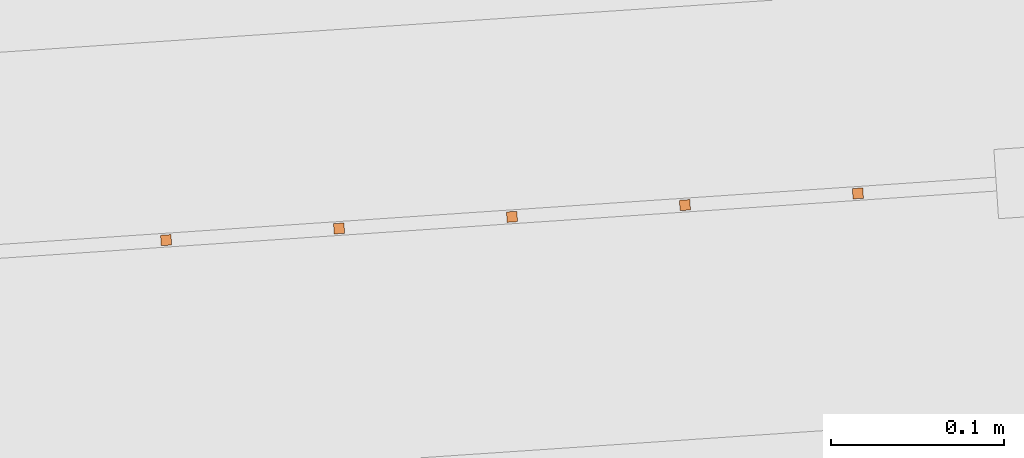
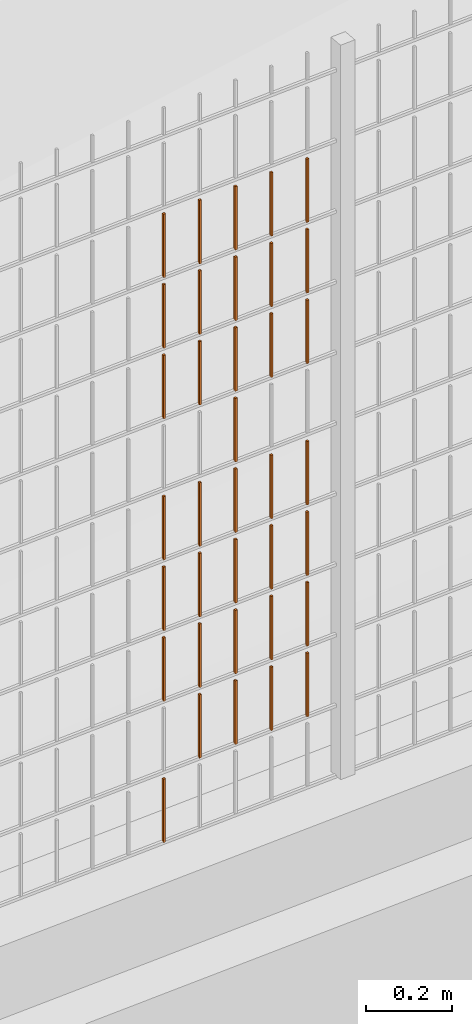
# One storey, part 133 of 1809: 36 proxies, 1 element without a shape of its own.
"""IFC2X3 building model written with IfcOpenShell, lengths in millimetres."""

from ifc_helpers import new_model, entity, si_unit, converted_unit, derived_unit, money_unit, direction, frame, origin_with_axes, place, context, subcontext, project, spatial, faceted_brep, source, transform, mapped, material, type_object, element, aggregate, save


model = new_model("IFC2X3")

# Units and contexts
model_context = context("Model", 3, precision=0.01, world=origin_with_axes(), true_north=direction((0.0, 1.0)))
body_context = subcontext(model_context, "Body", "Model", "MODEL_VIEW")
ifc_project = project(units=[si_unit("LENGTHUNIT", "METRE", prefix="MILLI"), si_unit("AREAUNIT", "SQUARE_METRE"), si_unit("VOLUMEUNIT", "CUBIC_METRE"), converted_unit("PLANEANGLEUNIT", "DEGREE", entity("IfcPlaneAngleMeasure", 0.0174532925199), si_unit("PLANEANGLEUNIT", "RADIAN"), dimensions=[0, 0, 0, 0, 0, 0, 0]), si_unit("SOLIDANGLEUNIT", "STERADIAN"), money_unit("EUR"), converted_unit("TIMEUNIT", "Year", entity("IfcTimeMeasure", 31556926.0), si_unit("TIMEUNIT", "SECOND"), dimensions=[0, 0, 1, 0, 0, 0, 0]), si_unit("MASSUNIT", "GRAM", prefix="KILO"), si_unit("THERMODYNAMICTEMPERATUREUNIT", "DEGREE_CELSIUS"), si_unit("LUMINOUSINTENSITYUNIT", "LUMEN"), si_unit("ENERGYUNIT", "JOULE", prefix="MEGA"), derived_unit("THERMALCONDUCTANCEUNIT", [(si_unit("POWERUNIT", "WATT"), 1), (si_unit("LENGTHUNIT", "METRE"), -1), (si_unit("THERMODYNAMICTEMPERATUREUNIT", "KELVIN"), -1)]), derived_unit("SPECIFICHEATCAPACITYUNIT", [(si_unit("ENERGYUNIT", "JOULE"), 1), (si_unit("MASSUNIT", "GRAM", prefix="KILO"), -1), (si_unit("THERMODYNAMICTEMPERATUREUNIT", "KELVIN"), -1)]), derived_unit("MASSDENSITYUNIT", [(si_unit("MASSUNIT", "GRAM", prefix="KILO"), 1), (si_unit("VOLUMEUNIT", "CUBIC_METRE"), -1)])], contexts=[model_context])

# Site, building, storey
site_placement = place(None, origin_with_axes())
site = spatial("IfcSite", under=ifc_project, at=site_placement, Name="Politse- ja Piirivalveameti ning Päästeameti ühishoone", CompositionType="ELEMENT")
building_placement = place(site_placement, origin_with_axes())
building = spatial("IfcBuilding", under=site, at=building_placement, Name="Politse- ja Piirivalveameti ning Päästeameti ühishoone", CompositionType="ELEMENT")
storey_placement = place(building_placement, origin_with_axes())
storey = spatial("IfcBuildingStorey", under=building, at=storey_placement, Name="Esimene korrus", CompositionType="ELEMENT", Elevation=0.0)

# Proxies
building_element_proxy_type_1 = type_object("IfcBuildingElementProxyType", Name="Railing Type", PredefinedType="NOTDEFINED")
proxy_1_placement = place(storey_placement, frame((89252.001212, -29183.4766571, 203.661247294), z_axis=(0.0, 0.0, 1.0), x_axis=(1.0, 0.0, 0.0)))
proxy_1 = element("IfcBuildingElementProxy", 1, at=proxy_1_placement, inside=storey, type_object=building_element_proxy_type_1, Name="PIIRDEAED")
ifc_material = material(Name="ET-03_Raud")
building_element_proxy_type_2 = type_object("IfcBuildingElementProxyType", Name="IfcBuildingElementProxy", PredefinedType="NOTDEFINED")
shared_shape_1 = source(origin_with_axes(), body_context, "Body", "Brep", [
    faceted_brep([(3.0, 3.0, -0.000752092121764), (-3.0, 3.0, -0.000752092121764), (-3.0, 3.0, 179.99926046), (3.0, 3.0, 179.99926046), (3.0, -3.0, 0.000752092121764), (-3.0, -3.0, 0.000752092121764), (-3.0, -3.0, 180.000764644), (3.0, -3.0, 180.000764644)], [[[0, 1, 2, 3]], [[0, 4, 5, 1]], [[1, 5, 6, 2]], [[3, 2, 6, 7]], [[4, 0, 3, 7]], [[5, 4, 7, 6]]]),
])
proxy_2_placement = place(proxy_1_placement, frame((-90121.3329752, -23385.1306984, 4.58972204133), z_axis=(0.0, 0.0, 1.0), x_axis=(1.0, 0.0, 0.0)))
proxy_2 = element("IfcBuildingElementProxy", 2, at=proxy_2_placement, type_object=building_element_proxy_type_2, material=ifc_material, Name="BALUSTER - 001", context=body_context, shape_type="MappedRepresentation", body=[
    mapped(shared_shape_1, transform((0.0, 0.0, 0.0), x_axis=(-0.0673926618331, 0.997726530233, 0.0), y_axis=(-0.997726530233, -0.0673926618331, 0.0), z_axis=(0.0, 0.0, 1.0))),
])
shared_shape_2 = source(origin_with_axes(), body_context, "Body", "Brep", [
    faceted_brep([(3.0, 3.0, -0.000752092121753), (-3.0, 3.0, -0.000752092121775), (-3.0, 3.0, 179.99926046), (3.0, 3.0, 179.99926046), (3.0, -3.0, 0.000752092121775), (-3.0, -3.0, 0.000752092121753), (-3.0, -3.0, 180.000764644), (3.0, -3.0, 180.000764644)], [[[0, 1, 2, 3]], [[0, 4, 5, 1]], [[1, 5, 6, 2]], [[3, 2, 6, 7]], [[4, 0, 3, 7]], [[5, 4, 7, 6]]]),
])
proxy_3_placement = place(proxy_1_placement, frame((-89722.2423631, -23358.1736337, 204.690000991), z_axis=(0.0, 0.0, 1.0), x_axis=(1.0, 0.0, 0.0)))
proxy_3 = element("IfcBuildingElementProxy", 3, at=proxy_3_placement, type_object=building_element_proxy_type_2, material=ifc_material, Name="BALUSTER - 001", context=body_context, shape_type="MappedRepresentation", body=[
    mapped(shared_shape_2, transform((0.0, 0.0, 0.0), x_axis=(-0.0673926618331, 0.997726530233, 0.0), y_axis=(-0.997726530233, -0.0673926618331, 0.0), z_axis=(0.0, 0.0, 1.0))),
])
shared_shape_3 = source(origin_with_axes(), body_context, "Body", "Brep", [
    faceted_brep([(3.0, 3.0, -0.000752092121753), (-3.0, 3.0, -0.000752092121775), (-3.0, 3.0, 179.99926046), (3.0, 3.0, 179.99926046), (3.0, -3.0, 0.000752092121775), (-3.0, -3.0, 0.000752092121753), (-3.0, -3.0, 180.000764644), (3.0, -3.0, 180.000764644)], [[[0, 1, 2, 3]], [[0, 4, 5, 1]], [[1, 5, 6, 2]], [[3, 2, 6, 7]], [[4, 0, 3, 7]], [[5, 4, 7, 6]]]),
])
proxy_4_placement = place(proxy_1_placement, frame((-89722.2423631, -23358.1736337, 404.690000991), z_axis=(0.0, 0.0, 1.0), x_axis=(1.0, 0.0, 0.0)))
proxy_4 = element("IfcBuildingElementProxy", 4, at=proxy_4_placement, type_object=building_element_proxy_type_2, material=ifc_material, Name="BALUSTER - 001", context=body_context, shape_type="MappedRepresentation", body=[
    mapped(shared_shape_3, transform((0.0, 0.0, 0.0), x_axis=(-0.0673926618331, 0.997726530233, 0.0), y_axis=(-0.997726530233, -0.0673926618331, 0.0), z_axis=(0.0, 0.0, 1.0))),
])
shared_shape_4 = source(origin_with_axes(), body_context, "Body", "Brep", [
    faceted_brep([(3.0, 3.0, -0.000752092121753), (-3.0, 3.0, -0.000752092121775), (-3.0, 3.0, 179.99926046), (3.0, 3.0, 179.99926046), (3.0, -3.0, 0.000752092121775), (-3.0, -3.0, 0.000752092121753), (-3.0, -3.0, 180.000764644), (3.0, -3.0, 180.000764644)], [[[0, 1, 2, 3]], [[0, 4, 5, 1]], [[1, 5, 6, 2]], [[3, 2, 6, 7]], [[4, 0, 3, 7]], [[5, 4, 7, 6]]]),
])
proxy_5_placement = place(proxy_1_placement, frame((-89822.0150162, -23364.9128999, 204.664931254), z_axis=(0.0, 0.0, 1.0), x_axis=(1.0, 0.0, 0.0)))
proxy_5 = element("IfcBuildingElementProxy", 5, at=proxy_5_placement, type_object=building_element_proxy_type_2, material=ifc_material, Name="BALUSTER - 001", context=body_context, shape_type="MappedRepresentation", body=[
    mapped(shared_shape_4, transform((0.0, 0.0, 0.0), x_axis=(-0.0673926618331, 0.997726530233, 0.0), y_axis=(-0.997726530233, -0.0673926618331, 0.0), z_axis=(0.0, 0.0, 1.0))),
])
proxy_6_placement = place(proxy_1_placement, frame((-89822.0150162, -23364.9128999, 404.664931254), z_axis=(0.0, 0.0, 1.0), x_axis=(1.0, 0.0, 0.0)))
proxy_6 = element("IfcBuildingElementProxy", 6, at=proxy_6_placement, type_object=building_element_proxy_type_2, material=ifc_material, Name="BALUSTER - 001", context=body_context, shape_type="MappedRepresentation", body=[
    mapped(shared_shape_4, transform((0.0, 0.0, 0.0), x_axis=(-0.0673926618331, 0.997726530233, 0.0), y_axis=(-0.997726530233, -0.0673926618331, 0.0), z_axis=(0.0, 0.0, 1.0))),
])
shared_shape_5 = source(origin_with_axes(), body_context, "Body", "Brep", [
    faceted_brep([(3.0, 3.0, -0.000752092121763), (-3.0, 3.0, -0.000752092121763), (-3.0, 3.0, 179.99926046), (3.0, 3.0, 179.99926046), (3.0, -3.0, 0.000752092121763), (-3.0, -3.0, 0.000752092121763), (-3.0, -3.0, 180.000764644), (3.0, -3.0, 180.000764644)], [[[0, 1, 2, 3]], [[0, 4, 5, 1]], [[1, 5, 6, 2]], [[3, 2, 6, 7]], [[4, 0, 3, 7]], [[5, 4, 7, 6]]]),
])
proxy_7_placement = place(proxy_1_placement, frame((-89921.7876692, -23371.6521661, 404.639861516), z_axis=(0.0, 0.0, 1.0), x_axis=(1.0, 0.0, 0.0)))
proxy_7 = element("IfcBuildingElementProxy", 7, at=proxy_7_placement, type_object=building_element_proxy_type_2, material=ifc_material, Name="BALUSTER - 001", context=body_context, shape_type="MappedRepresentation", body=[
    mapped(shared_shape_5, transform((0.0, 0.0, 0.0), x_axis=(-0.0673926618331, 0.997726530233, 0.0), y_axis=(-0.997726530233, -0.0673926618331, 0.0), z_axis=(0.0, 0.0, 1.0))),
])
proxy_8_placement = place(proxy_1_placement, frame((-89921.7876692, -23371.6521661, 604.639861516), z_axis=(0.0, 0.0, 1.0), x_axis=(1.0, 0.0, 0.0)))
proxy_8 = element("IfcBuildingElementProxy", 8, at=proxy_8_placement, type_object=building_element_proxy_type_2, material=ifc_material, Name="BALUSTER - 001", context=body_context, shape_type="MappedRepresentation", body=[
    mapped(shared_shape_5, transform((0.0, 0.0, 0.0), x_axis=(-0.0673926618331, 0.997726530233, 0.0), y_axis=(-0.997726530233, -0.0673926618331, 0.0), z_axis=(0.0, 0.0, 1.0))),
])
shared_shape_6 = source(origin_with_axes(), body_context, "Body", "Brep", [
    faceted_brep([(3.0, 3.0, -0.000752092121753), (-3.0, 3.0, -0.000752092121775), (-3.0, 3.0, 179.99926046), (3.0, 3.0, 179.99926046), (3.0, -3.0, 0.000752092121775), (-3.0, -3.0, 0.000752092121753), (-3.0, -3.0, 180.000764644), (3.0, -3.0, 180.000764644)], [[[0, 1, 2, 3]], [[0, 4, 5, 1]], [[1, 5, 6, 2]], [[3, 2, 6, 7]], [[4, 0, 3, 7]], [[5, 4, 7, 6]]]),
])
proxy_9_placement = place(proxy_1_placement, frame((-89822.0150162, -23364.9128999, 804.664931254), z_axis=(0.0, 0.0, 1.0), x_axis=(1.0, 0.0, 0.0)))
proxy_9 = element("IfcBuildingElementProxy", 9, at=proxy_9_placement, type_object=building_element_proxy_type_2, material=ifc_material, Name="BALUSTER - 001", context=body_context, shape_type="MappedRepresentation", body=[
    mapped(shared_shape_6, transform((0.0, 0.0, 0.0), x_axis=(-0.0673926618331, 0.997726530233, 0.0), y_axis=(-0.997726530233, -0.0673926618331, 0.0), z_axis=(0.0, 0.0, 1.0))),
])
proxy_10_placement = place(proxy_1_placement, frame((-89722.2423631, -23358.1736337, 1204.69000099), z_axis=(0.0, 0.0, 1.0), x_axis=(1.0, 0.0, 0.0)))
proxy_10 = element("IfcBuildingElementProxy", 10, at=proxy_10_placement, type_object=building_element_proxy_type_2, material=ifc_material, Name="BALUSTER - 001", context=body_context, shape_type="MappedRepresentation", body=[
    mapped(shared_shape_6, transform((0.0, 0.0, 0.0), x_axis=(-0.0673926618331, 0.997726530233, 0.0), y_axis=(-0.997726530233, -0.0673926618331, 0.0), z_axis=(0.0, 0.0, 1.0))),
])
shared_shape_7 = source(origin_with_axes(), body_context, "Body", "Brep", [
    faceted_brep([(3.0, 3.0, -0.000752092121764), (-3.0, 3.0, -0.000752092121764), (-3.0, 3.0, 179.99926046), (3.0, 3.0, 179.99926046), (3.0, -3.0, 0.000752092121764), (-3.0, -3.0, 0.000752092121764), (-3.0, -3.0, 180.000764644), (3.0, -3.0, 180.000764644)], [[[0, 1, 2, 3]], [[0, 4, 5, 1]], [[1, 5, 6, 2]], [[3, 2, 6, 7]], [[4, 0, 3, 7]], [[5, 4, 7, 6]]]),
])
proxy_11_placement = place(proxy_1_placement, frame((-90121.3329752, -23385.1306984, 804.589722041), z_axis=(0.0, 0.0, 1.0), x_axis=(1.0, 0.0, 0.0)))
proxy_11 = element("IfcBuildingElementProxy", 11, at=proxy_11_placement, type_object=building_element_proxy_type_2, material=ifc_material, Name="BALUSTER - 001", context=body_context, shape_type="MappedRepresentation", body=[
    mapped(shared_shape_7, transform((0.0, 0.0, 0.0), x_axis=(-0.0673926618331, 0.997726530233, 0.0), y_axis=(-0.997726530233, -0.0673926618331, 0.0), z_axis=(0.0, 0.0, 1.0))),
])
shared_shape_8 = source(origin_with_axes(), body_context, "Body", "Brep", [
    faceted_brep([(3.0, 3.0, -0.000752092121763), (-3.0, 3.0, -0.000752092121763), (-3.0, 3.0, 179.99926046), (3.0, 3.0, 179.99926046), (3.0, -3.0, 0.000752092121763), (-3.0, -3.0, 0.000752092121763), (-3.0, -3.0, 180.000764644), (3.0, -3.0, 180.000764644)], [[[0, 1, 2, 3]], [[0, 4, 5, 1]], [[1, 5, 6, 2]], [[3, 2, 6, 7]], [[4, 0, 3, 7]], [[5, 4, 7, 6]]]),
])
proxy_12_placement = place(proxy_1_placement, frame((-89921.7876692, -23371.6521661, 204.639861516), z_axis=(0.0, 0.0, 1.0), x_axis=(1.0, 0.0, 0.0)))
proxy_12 = element("IfcBuildingElementProxy", 12, at=proxy_12_placement, type_object=building_element_proxy_type_2, material=ifc_material, Name="BALUSTER - 001", context=body_context, shape_type="MappedRepresentation", body=[
    mapped(shared_shape_8, transform((0.0, 0.0, 0.0), x_axis=(-0.0673926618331, 0.997726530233, 0.0), y_axis=(-0.997726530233, -0.0673926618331, 0.0), z_axis=(0.0, 0.0, 1.0))),
])
shared_shape_9 = source(origin_with_axes(), body_context, "Body", "Brep", [
    faceted_brep([(3.0, 3.0, -0.000752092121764), (-3.0, 3.0, -0.000752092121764), (-3.0, 3.0, 179.99926046), (3.0, 3.0, 179.99926046), (3.0, -3.0, 0.000752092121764), (-3.0, -3.0, 0.000752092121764), (-3.0, -3.0, 180.000764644), (3.0, -3.0, 180.000764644)], [[[0, 1, 2, 3]], [[0, 4, 5, 1]], [[1, 5, 6, 2]], [[3, 2, 6, 7]], [[4, 0, 3, 7]], [[5, 4, 7, 6]]]),
])
proxy_13_placement = place(proxy_1_placement, frame((-89921.7876692, -23371.6521661, 1204.63986152), z_axis=(0.0, 0.0, 1.0), x_axis=(1.0, 0.0, 0.0)))
proxy_13 = element("IfcBuildingElementProxy", 13, at=proxy_13_placement, type_object=building_element_proxy_type_2, material=ifc_material, Name="BALUSTER - 001", context=body_context, shape_type="MappedRepresentation", body=[
    mapped(shared_shape_9, transform((0.0, 0.0, 0.0), x_axis=(-0.0673926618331, 0.997726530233, 0.0), y_axis=(-0.997726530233, -0.0673926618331, 0.0), z_axis=(0.0, 0.0, 1.0))),
])
shared_shape_10 = source(origin_with_axes(), body_context, "Body", "Brep", [
    faceted_brep([(3.0, 3.0, -0.000752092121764), (-3.0, 3.0, -0.000752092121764), (-3.0, 3.0, 179.99926046), (3.0, 3.0, 179.99926046), (3.0, -3.0, 0.000752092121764), (-3.0, -3.0, 0.000752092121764), (-3.0, -3.0, 180.000764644), (3.0, -3.0, 180.000764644)], [[[0, 1, 2, 3]], [[0, 4, 5, 1]], [[1, 5, 6, 2]], [[3, 2, 6, 7]], [[4, 0, 3, 7]], [[5, 4, 7, 6]]]),
])
proxy_14_placement = place(proxy_1_placement, frame((-89921.7876692, -23371.6521661, 1404.63986152), z_axis=(0.0, 0.0, 1.0), x_axis=(1.0, 0.0, 0.0)))
proxy_14 = element("IfcBuildingElementProxy", 14, at=proxy_14_placement, type_object=building_element_proxy_type_2, material=ifc_material, Name="BALUSTER - 001", context=body_context, shape_type="MappedRepresentation", body=[
    mapped(shared_shape_10, transform((0.0, 0.0, 0.0), x_axis=(-0.0673926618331, 0.997726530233, 0.0), y_axis=(-0.997726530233, -0.0673926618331, 0.0), z_axis=(0.0, 0.0, 1.0))),
])
proxy_15_placement = place(proxy_1_placement, frame((-89921.7876692, -23371.6521661, 1604.63986152), z_axis=(0.0, 0.0, 1.0), x_axis=(1.0, 0.0, 0.0)))
proxy_15 = element("IfcBuildingElementProxy", 15, at=proxy_15_placement, type_object=building_element_proxy_type_2, material=ifc_material, Name="BALUSTER - 001", context=body_context, shape_type="MappedRepresentation", body=[
    mapped(shared_shape_10, transform((0.0, 0.0, 0.0), x_axis=(-0.0673926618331, 0.997726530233, 0.0), y_axis=(-0.997726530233, -0.0673926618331, 0.0), z_axis=(0.0, 0.0, 1.0))),
])
shared_shape_11 = source(origin_with_axes(), body_context, "Body", "Brep", [
    faceted_brep([(3.0, 3.0, -0.000752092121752), (-3.0, 3.0, -0.000752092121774), (-3.0, 3.0, 179.99926046), (3.0, 3.0, 179.99926046), (3.0, -3.0, 0.000752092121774), (-3.0, -3.0, 0.000752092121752), (-3.0, -3.0, 180.000764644), (3.0, -3.0, 180.000764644)], [[[0, 1, 2, 3]], [[0, 4, 5, 1]], [[1, 5, 6, 2]], [[3, 2, 6, 7]], [[4, 0, 3, 7]], [[5, 4, 7, 6]]]),
])
proxy_16_placement = place(proxy_1_placement, frame((-89822.0150162, -23364.9128999, 1204.66493125), z_axis=(0.0, 0.0, 1.0), x_axis=(1.0, 0.0, 0.0)))
proxy_16 = element("IfcBuildingElementProxy", 16, at=proxy_16_placement, type_object=building_element_proxy_type_2, material=ifc_material, Name="BALUSTER - 001", context=body_context, shape_type="MappedRepresentation", body=[
    mapped(shared_shape_11, transform((0.0, 0.0, 0.0), x_axis=(-0.0673926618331, 0.997726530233, 0.0), y_axis=(-0.997726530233, -0.0673926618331, 0.0), z_axis=(0.0, 0.0, 1.0))),
])
shared_shape_12 = source(origin_with_axes(), body_context, "Body", "Brep", [
    faceted_brep([(3.0, 3.0, -0.000752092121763), (-3.0, 3.0, -0.000752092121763), (-3.0, 3.0, 179.99926046), (3.0, 3.0, 179.99926046), (3.0, -3.0, 0.000752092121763), (-3.0, -3.0, 0.000752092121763), (-3.0, -3.0, 180.000764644), (3.0, -3.0, 180.000764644)], [[[0, 1, 2, 3]], [[0, 4, 5, 1]], [[1, 5, 6, 2]], [[3, 2, 6, 7]], [[4, 0, 3, 7]], [[5, 4, 7, 6]]]),
])
proxy_17_placement = place(proxy_1_placement, frame((-90021.5603222, -23378.3914323, 804.614791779), z_axis=(0.0, 0.0, 1.0), x_axis=(1.0, 0.0, 0.0)))
proxy_17 = element("IfcBuildingElementProxy", 17, at=proxy_17_placement, type_object=building_element_proxy_type_2, material=ifc_material, Name="BALUSTER - 001", context=body_context, shape_type="MappedRepresentation", body=[
    mapped(shared_shape_12, transform((0.0, 0.0, 0.0), x_axis=(-0.0673926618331, 0.997726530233, 0.0), y_axis=(-0.997726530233, -0.0673926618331, 0.0), z_axis=(0.0, 0.0, 1.0))),
])
shared_shape_13 = source(origin_with_axes(), body_context, "Body", "Brep", [
    faceted_brep([(3.0, 3.0, -0.000752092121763), (-3.0, 3.0, -0.000752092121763), (-3.0, 3.0, 179.99926046), (3.0, 3.0, 179.99926046), (3.0, -3.0, 0.000752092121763), (-3.0, -3.0, 0.000752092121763), (-3.0, -3.0, 180.000764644), (3.0, -3.0, 180.000764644)], [[[0, 1, 2, 3]], [[0, 4, 5, 1]], [[1, 5, 6, 2]], [[3, 2, 6, 7]], [[4, 0, 3, 7]], [[5, 4, 7, 6]]]),
])
proxy_18_placement = place(proxy_1_placement, frame((-90121.3329752, -23385.1306984, 1204.58972204), z_axis=(0.0, 0.0, 1.0), x_axis=(1.0, 0.0, 0.0)))
proxy_18 = element("IfcBuildingElementProxy", 18, at=proxy_18_placement, type_object=building_element_proxy_type_2, material=ifc_material, Name="BALUSTER - 001", context=body_context, shape_type="MappedRepresentation", body=[
    mapped(shared_shape_13, transform((0.0, 0.0, 0.0), x_axis=(-0.0673926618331, 0.997726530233, 0.0), y_axis=(-0.997726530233, -0.0673926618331, 0.0), z_axis=(0.0, 0.0, 1.0))),
])
shared_shape_14 = source(origin_with_axes(), body_context, "Body", "Brep", [
    faceted_brep([(3.0, 3.0, -0.000752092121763), (-3.0, 3.0, -0.000752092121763), (-3.0, 3.0, 179.99926046), (3.0, 3.0, 179.99926046), (3.0, -3.0, 0.000752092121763), (-3.0, -3.0, 0.000752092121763), (-3.0, -3.0, 180.000764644), (3.0, -3.0, 180.000764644)], [[[0, 1, 2, 3]], [[0, 4, 5, 1]], [[1, 5, 6, 2]], [[3, 2, 6, 7]], [[4, 0, 3, 7]], [[5, 4, 7, 6]]]),
])
proxy_19_placement = place(proxy_1_placement, frame((-90021.5603222, -23378.3914323, 204.614791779), z_axis=(0.0, 0.0, 1.0), x_axis=(1.0, 0.0, 0.0)))
proxy_19 = element("IfcBuildingElementProxy", 19, at=proxy_19_placement, type_object=building_element_proxy_type_2, material=ifc_material, Name="BALUSTER - 001", context=body_context, shape_type="MappedRepresentation", body=[
    mapped(shared_shape_14, transform((0.0, 0.0, 0.0), x_axis=(-0.0673926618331, 0.997726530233, 0.0), y_axis=(-0.997726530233, -0.0673926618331, 0.0), z_axis=(0.0, 0.0, 1.0))),
])
proxy_20_placement = place(proxy_1_placement, frame((-90021.5603222, -23378.3914323, 404.614791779), z_axis=(0.0, 0.0, 1.0), x_axis=(1.0, 0.0, 0.0)))
proxy_20 = element("IfcBuildingElementProxy", 20, at=proxy_20_placement, type_object=building_element_proxy_type_2, material=ifc_material, Name="BALUSTER - 001", context=body_context, shape_type="MappedRepresentation", body=[
    mapped(shared_shape_14, transform((0.0, 0.0, 0.0), x_axis=(-0.0673926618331, 0.997726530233, 0.0), y_axis=(-0.997726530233, -0.0673926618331, 0.0), z_axis=(0.0, 0.0, 1.0))),
])
proxy_21_placement = place(proxy_1_placement, frame((-90021.5603222, -23378.3914323, 604.614791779), z_axis=(0.0, 0.0, 1.0), x_axis=(1.0, 0.0, 0.0)))
proxy_21 = element("IfcBuildingElementProxy", 21, at=proxy_21_placement, type_object=building_element_proxy_type_2, material=ifc_material, Name="BALUSTER - 001", context=body_context, shape_type="MappedRepresentation", body=[
    mapped(shared_shape_14, transform((0.0, 0.0, 0.0), x_axis=(-0.0673926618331, 0.997726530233, 0.0), y_axis=(-0.997726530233, -0.0673926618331, 0.0), z_axis=(0.0, 0.0, 1.0))),
])
shared_shape_15 = source(origin_with_axes(), body_context, "Body", "Brep", [
    faceted_brep([(3.0, 3.0, -0.000752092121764), (-3.0, 3.0, -0.000752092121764), (-3.0, 3.0, 179.99926046), (3.0, 3.0, 179.99926046), (3.0, -3.0, 0.000752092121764), (-3.0, -3.0, 0.000752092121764), (-3.0, -3.0, 180.000764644), (3.0, -3.0, 180.000764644)], [[[0, 1, 2, 3]], [[0, 4, 5, 1]], [[1, 5, 6, 2]], [[3, 2, 6, 7]], [[4, 0, 3, 7]], [[5, 4, 7, 6]]]),
])
proxy_22_placement = place(proxy_1_placement, frame((-90121.3329752, -23385.1306984, 604.589722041), z_axis=(0.0, 0.0, 1.0), x_axis=(1.0, 0.0, 0.0)))
proxy_22 = element("IfcBuildingElementProxy", 22, at=proxy_22_placement, type_object=building_element_proxy_type_2, material=ifc_material, Name="BALUSTER - 001", context=body_context, shape_type="MappedRepresentation", body=[
    mapped(shared_shape_15, transform((0.0, 0.0, 0.0), x_axis=(-0.0673926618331, 0.997726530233, 0.0), y_axis=(-0.997726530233, -0.0673926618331, 0.0), z_axis=(0.0, 0.0, 1.0))),
])
shared_shape_16 = source(origin_with_axes(), body_context, "Body", "Brep", [
    faceted_brep([(3.0, 3.0, -0.000752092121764), (-3.0, 3.0, -0.000752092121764), (-3.0, 3.0, 179.99926046), (3.0, 3.0, 179.99926046), (3.0, -3.0, 0.000752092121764), (-3.0, -3.0, 0.000752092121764), (-3.0, -3.0, 180.000764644), (3.0, -3.0, 180.000764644)], [[[0, 1, 2, 3]], [[0, 4, 5, 1]], [[1, 5, 6, 2]], [[3, 2, 6, 7]], [[4, 0, 3, 7]], [[5, 4, 7, 6]]]),
])
proxy_23_placement = place(proxy_1_placement, frame((-90121.3329752, -23385.1306984, 404.589722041), z_axis=(0.0, 0.0, 1.0), x_axis=(1.0, 0.0, 0.0)))
proxy_23 = element("IfcBuildingElementProxy", 23, at=proxy_23_placement, type_object=building_element_proxy_type_2, material=ifc_material, Name="BALUSTER - 001", context=body_context, shape_type="MappedRepresentation", body=[
    mapped(shared_shape_16, transform((0.0, 0.0, 0.0), x_axis=(-0.0673926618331, 0.997726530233, 0.0), y_axis=(-0.997726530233, -0.0673926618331, 0.0), z_axis=(0.0, 0.0, 1.0))),
])
shared_shape_17 = source(origin_with_axes(), body_context, "Body", "Brep", [
    faceted_brep([(3.0, 3.0, -0.000752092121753), (-3.0, 3.0, -0.000752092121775), (-3.0, 3.0, 179.99926046), (3.0, 3.0, 179.99926046), (3.0, -3.0, 0.000752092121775), (-3.0, -3.0, 0.000752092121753), (-3.0, -3.0, 180.000764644), (3.0, -3.0, 180.000764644)], [[[0, 1, 2, 3]], [[0, 4, 5, 1]], [[1, 5, 6, 2]], [[3, 2, 6, 7]], [[4, 0, 3, 7]], [[5, 4, 7, 6]]]),
])
proxy_24_placement = place(proxy_1_placement, frame((-89822.0150162, -23364.9128999, 604.664931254), z_axis=(0.0, 0.0, 1.0), x_axis=(1.0, 0.0, 0.0)))
proxy_24 = element("IfcBuildingElementProxy", 24, at=proxy_24_placement, type_object=building_element_proxy_type_2, material=ifc_material, Name="BALUSTER - 001", context=body_context, shape_type="MappedRepresentation", body=[
    mapped(shared_shape_17, transform((0.0, 0.0, 0.0), x_axis=(-0.0673926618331, 0.997726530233, 0.0), y_axis=(-0.997726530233, -0.0673926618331, 0.0), z_axis=(0.0, 0.0, 1.0))),
])
shared_shape_18 = source(origin_with_axes(), body_context, "Body", "Brep", [
    faceted_brep([(3.0, 3.0, -0.000752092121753), (-3.0, 3.0, -0.000752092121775), (-3.0, 3.0, 179.99926046), (3.0, 3.0, 179.99926046), (3.0, -3.0, 0.000752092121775), (-3.0, -3.0, 0.000752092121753), (-3.0, -3.0, 180.000764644), (3.0, -3.0, 180.000764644)], [[[0, 1, 2, 3]], [[0, 4, 5, 1]], [[1, 5, 6, 2]], [[3, 2, 6, 7]], [[4, 0, 3, 7]], [[5, 4, 7, 6]]]),
])
proxy_25_placement = place(proxy_1_placement, frame((-89722.2423631, -23358.1736337, 604.690000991), z_axis=(0.0, 0.0, 1.0), x_axis=(1.0, 0.0, 0.0)))
proxy_25 = element("IfcBuildingElementProxy", 25, at=proxy_25_placement, type_object=building_element_proxy_type_2, material=ifc_material, Name="BALUSTER - 001", context=body_context, shape_type="MappedRepresentation", body=[
    mapped(shared_shape_18, transform((0.0, 0.0, 0.0), x_axis=(-0.0673926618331, 0.997726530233, 0.0), y_axis=(-0.997726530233, -0.0673926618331, 0.0), z_axis=(0.0, 0.0, 1.0))),
])
proxy_26_placement = place(proxy_1_placement, frame((-89722.2423631, -23358.1736337, 804.690000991), z_axis=(0.0, 0.0, 1.0), x_axis=(1.0, 0.0, 0.0)))
proxy_26 = element("IfcBuildingElementProxy", 26, at=proxy_26_placement, type_object=building_element_proxy_type_2, material=ifc_material, Name="BALUSTER - 001", context=body_context, shape_type="MappedRepresentation", body=[
    mapped(shared_shape_18, transform((0.0, 0.0, 0.0), x_axis=(-0.0673926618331, 0.997726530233, 0.0), y_axis=(-0.997726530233, -0.0673926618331, 0.0), z_axis=(0.0, 0.0, 1.0))),
])
shared_shape_19 = source(origin_with_axes(), body_context, "Body", "Brep", [
    faceted_brep([(3.0, 3.0, -0.000752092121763), (-3.0, 3.0, -0.000752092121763), (-3.0, 3.0, 179.99926046), (3.0, 3.0, 179.99926046), (3.0, -3.0, 0.000752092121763), (-3.0, -3.0, 0.000752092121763), (-3.0, -3.0, 180.000764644), (3.0, -3.0, 180.000764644)], [[[0, 1, 2, 3]], [[0, 4, 5, 1]], [[1, 5, 6, 2]], [[3, 2, 6, 7]], [[4, 0, 3, 7]], [[5, 4, 7, 6]]]),
])
proxy_27_placement = place(proxy_1_placement, frame((-89921.7876692, -23371.6521661, 804.639861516), z_axis=(0.0, 0.0, 1.0), x_axis=(1.0, 0.0, 0.0)))
proxy_27 = element("IfcBuildingElementProxy", 27, at=proxy_27_placement, type_object=building_element_proxy_type_2, material=ifc_material, Name="BALUSTER - 001", context=body_context, shape_type="MappedRepresentation", body=[
    mapped(shared_shape_19, transform((0.0, 0.0, 0.0), x_axis=(-0.0673926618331, 0.997726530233, 0.0), y_axis=(-0.997726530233, -0.0673926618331, 0.0), z_axis=(0.0, 0.0, 1.0))),
])
proxy_28_placement = place(proxy_1_placement, frame((-90021.5603222, -23378.3914323, 1204.61479178), z_axis=(0.0, 0.0, 1.0), x_axis=(1.0, 0.0, 0.0)))
proxy_28 = element("IfcBuildingElementProxy", 28, at=proxy_28_placement, type_object=building_element_proxy_type_2, material=ifc_material, Name="BALUSTER - 001", context=body_context, shape_type="MappedRepresentation", body=[
    mapped(shared_shape_19, transform((0.0, 0.0, 0.0), x_axis=(-0.0673926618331, 0.997726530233, 0.0), y_axis=(-0.997726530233, -0.0673926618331, 0.0), z_axis=(0.0, 0.0, 1.0))),
])
shared_shape_20 = source(origin_with_axes(), body_context, "Body", "Brep", [
    faceted_brep([(3.0, 3.0, -0.000752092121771), (-3.0, 3.0, -0.000752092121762), (-3.00000000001, 3.0, 179.99926046), (2.99999999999, 3.0, 179.99926046), (3.0, -3.0, 0.000752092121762), (-3.0, -3.0, 0.000752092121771), (-3.00000000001, -3.0, 180.000764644), (2.99999999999, -3.0, 180.000764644)], [[[0, 1, 2, 3]], [[0, 4, 5, 1]], [[1, 5, 6, 2]], [[3, 2, 6, 7]], [[4, 0, 3, 7]], [[5, 4, 7, 6]]]),
])
proxy_29_placement = place(proxy_1_placement, frame((-89921.7876692, -23371.6521661, 1004.63986152), z_axis=(0.0, 0.0, 1.0), x_axis=(1.0, 0.0, 0.0)))
proxy_29 = element("IfcBuildingElementProxy", 29, at=proxy_29_placement, type_object=building_element_proxy_type_2, material=ifc_material, Name="BALUSTER - 001", context=body_context, shape_type="MappedRepresentation", body=[
    mapped(shared_shape_20, transform((0.0, 0.0, 0.0), x_axis=(-0.0673926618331, 0.997726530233, 0.0), y_axis=(-0.997726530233, -0.0673926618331, 0.0), z_axis=(0.0, 0.0, 1.0))),
])
shared_shape_21 = source(origin_with_axes(), body_context, "Body", "Brep", [
    faceted_brep([(3.0, 3.0, -0.000752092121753), (-3.0, 3.0, -0.000752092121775), (-3.0, 3.0, 179.99926046), (3.0, 3.0, 179.99926046), (3.0, -3.0, 0.000752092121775), (-3.0, -3.0, 0.000752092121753), (-3.0, -3.0, 180.000764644), (3.0, -3.0, 180.000764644)], [[[0, 1, 2, 3]], [[0, 4, 5, 1]], [[1, 5, 6, 2]], [[3, 2, 6, 7]], [[4, 0, 3, 7]], [[5, 4, 7, 6]]]),
])
proxy_30_placement = place(proxy_1_placement, frame((-89722.2423631, -23358.1736337, 1404.69000099), z_axis=(0.0, 0.0, 1.0), x_axis=(1.0, 0.0, 0.0)))
proxy_30 = element("IfcBuildingElementProxy", 30, at=proxy_30_placement, type_object=building_element_proxy_type_2, material=ifc_material, Name="BALUSTER - 001", context=body_context, shape_type="MappedRepresentation", body=[
    mapped(shared_shape_21, transform((0.0, 0.0, 0.0), x_axis=(-0.0673926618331, 0.997726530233, 0.0), y_axis=(-0.997726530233, -0.0673926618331, 0.0), z_axis=(0.0, 0.0, 1.0))),
])
proxy_31_placement = place(proxy_1_placement, frame((-89722.2423631, -23358.1736337, 1604.69000099), z_axis=(0.0, 0.0, 1.0), x_axis=(1.0, 0.0, 0.0)))
proxy_31 = element("IfcBuildingElementProxy", 31, at=proxy_31_placement, type_object=building_element_proxy_type_2, material=ifc_material, Name="BALUSTER - 001", context=body_context, shape_type="MappedRepresentation", body=[
    mapped(shared_shape_21, transform((0.0, 0.0, 0.0), x_axis=(-0.0673926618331, 0.997726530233, 0.0), y_axis=(-0.997726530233, -0.0673926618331, 0.0), z_axis=(0.0, 0.0, 1.0))),
])
shared_shape_22 = source(origin_with_axes(), body_context, "Body", "Brep", [
    faceted_brep([(3.0, 3.0, -0.000752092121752), (-3.0, 3.0, -0.000752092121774), (-3.0, 3.0, 179.99926046), (3.0, 3.0, 179.99926046), (3.0, -3.0, 0.000752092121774), (-3.0, -3.0, 0.000752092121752), (-3.0, -3.0, 180.000764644), (3.0, -3.0, 180.000764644)], [[[0, 1, 2, 3]], [[0, 4, 5, 1]], [[1, 5, 6, 2]], [[3, 2, 6, 7]], [[4, 0, 3, 7]], [[5, 4, 7, 6]]]),
])
proxy_32_placement = place(proxy_1_placement, frame((-89822.0150162, -23364.9128999, 1404.66493125), z_axis=(0.0, 0.0, 1.0), x_axis=(1.0, 0.0, 0.0)))
proxy_32 = element("IfcBuildingElementProxy", 32, at=proxy_32_placement, type_object=building_element_proxy_type_2, material=ifc_material, Name="BALUSTER - 001", context=body_context, shape_type="MappedRepresentation", body=[
    mapped(shared_shape_22, transform((0.0, 0.0, 0.0), x_axis=(-0.0673926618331, 0.997726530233, 0.0), y_axis=(-0.997726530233, -0.0673926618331, 0.0), z_axis=(0.0, 0.0, 1.0))),
])
proxy_33_placement = place(proxy_1_placement, frame((-89822.0150162, -23364.9128999, 1604.66493125), z_axis=(0.0, 0.0, 1.0), x_axis=(1.0, 0.0, 0.0)))
proxy_33 = element("IfcBuildingElementProxy", 33, at=proxy_33_placement, type_object=building_element_proxy_type_2, material=ifc_material, Name="BALUSTER - 001", context=body_context, shape_type="MappedRepresentation", body=[
    mapped(shared_shape_22, transform((0.0, 0.0, 0.0), x_axis=(-0.0673926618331, 0.997726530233, 0.0), y_axis=(-0.997726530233, -0.0673926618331, 0.0), z_axis=(0.0, 0.0, 1.0))),
])
shared_shape_23 = source(origin_with_axes(), body_context, "Body", "Brep", [
    faceted_brep([(3.0, 3.0, -0.000752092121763), (-3.0, 3.0, -0.000752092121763), (-3.0, 3.0, 179.99926046), (3.0, 3.0, 179.99926046), (3.0, -3.0, 0.000752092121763), (-3.0, -3.0, 0.000752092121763), (-3.0, -3.0, 180.000764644), (3.0, -3.0, 180.000764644)], [[[0, 1, 2, 3]], [[0, 4, 5, 1]], [[1, 5, 6, 2]], [[3, 2, 6, 7]], [[4, 0, 3, 7]], [[5, 4, 7, 6]]]),
])
proxy_34_placement = place(proxy_1_placement, frame((-90021.5603222, -23378.3914323, 1404.61479178), z_axis=(0.0, 0.0, 1.0), x_axis=(1.0, 0.0, 0.0)))
proxy_34 = element("IfcBuildingElementProxy", 34, at=proxy_34_placement, type_object=building_element_proxy_type_2, material=ifc_material, Name="BALUSTER - 001", context=body_context, shape_type="MappedRepresentation", body=[
    mapped(shared_shape_23, transform((0.0, 0.0, 0.0), x_axis=(-0.0673926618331, 0.997726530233, 0.0), y_axis=(-0.997726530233, -0.0673926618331, 0.0), z_axis=(0.0, 0.0, 1.0))),
])
proxy_35_placement = place(proxy_1_placement, frame((-90021.5603222, -23378.3914323, 1604.61479178), z_axis=(0.0, 0.0, 1.0), x_axis=(1.0, 0.0, 0.0)))
proxy_35 = element("IfcBuildingElementProxy", 35, at=proxy_35_placement, type_object=building_element_proxy_type_2, material=ifc_material, Name="BALUSTER - 001", context=body_context, shape_type="MappedRepresentation", body=[
    mapped(shared_shape_23, transform((0.0, 0.0, 0.0), x_axis=(-0.0673926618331, 0.997726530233, 0.0), y_axis=(-0.997726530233, -0.0673926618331, 0.0), z_axis=(0.0, 0.0, 1.0))),
])
shared_shape_24 = source(origin_with_axes(), body_context, "Body", "Brep", [
    faceted_brep([(3.0, 3.0, -0.000752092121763), (-3.0, 3.0, -0.000752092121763), (-3.0, 3.0, 179.99926046), (3.0, 3.0, 179.99926046), (3.0, -3.0, 0.000752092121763), (-3.0, -3.0, 0.000752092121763), (-3.0, -3.0, 180.000764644), (3.0, -3.0, 180.000764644)], [[[0, 1, 2, 3]], [[0, 4, 5, 1]], [[1, 5, 6, 2]], [[3, 2, 6, 7]], [[4, 0, 3, 7]], [[5, 4, 7, 6]]]),
])
proxy_36_placement = place(proxy_1_placement, frame((-90121.3329752, -23385.1306984, 1404.58972204), z_axis=(0.0, 0.0, 1.0), x_axis=(1.0, 0.0, 0.0)))
proxy_36 = element("IfcBuildingElementProxy", 36, at=proxy_36_placement, type_object=building_element_proxy_type_2, material=ifc_material, Name="BALUSTER - 001", context=body_context, shape_type="MappedRepresentation", body=[
    mapped(shared_shape_24, transform((0.0, 0.0, 0.0), x_axis=(-0.0673926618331, 0.997726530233, 0.0), y_axis=(-0.997726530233, -0.0673926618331, 0.0), z_axis=(0.0, 0.0, 1.0))),
])
proxy_37_placement = place(proxy_1_placement, frame((-90121.3329752, -23385.1306984, 1604.58972204), z_axis=(0.0, 0.0, 1.0), x_axis=(1.0, 0.0, 0.0)))
proxy_37 = element("IfcBuildingElementProxy", 37, at=proxy_37_placement, type_object=building_element_proxy_type_2, material=ifc_material, Name="BALUSTER - 001", context=body_context, shape_type="MappedRepresentation", body=[
    mapped(shared_shape_24, transform((0.0, 0.0, 0.0), x_axis=(-0.0673926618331, 0.997726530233, 0.0), y_axis=(-0.997726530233, -0.0673926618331, 0.0), z_axis=(0.0, 0.0, 1.0))),
])
aggregate(proxy_1, [proxy_2, proxy_3, proxy_5, proxy_12, proxy_19, proxy_4, proxy_6, proxy_7, proxy_20, proxy_23, proxy_25, proxy_24, proxy_8, proxy_21, proxy_22, proxy_26, proxy_9, proxy_27, proxy_17, proxy_11, proxy_29, proxy_10, proxy_16, proxy_13, proxy_28, proxy_18, proxy_30, proxy_32, proxy_14, proxy_34, proxy_36, proxy_31, proxy_33, proxy_15, proxy_35, proxy_37])

save(model, "model.ifc")
